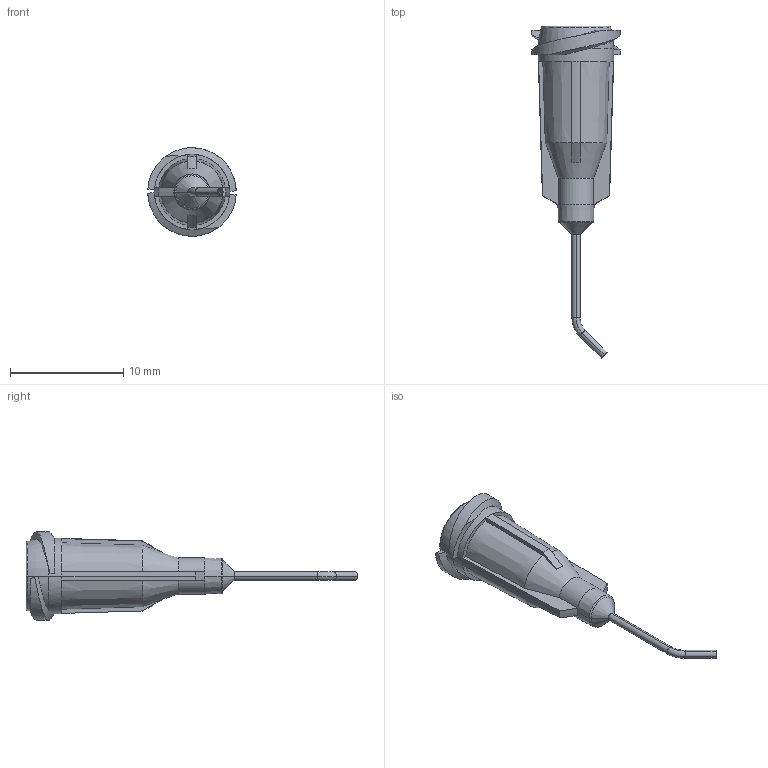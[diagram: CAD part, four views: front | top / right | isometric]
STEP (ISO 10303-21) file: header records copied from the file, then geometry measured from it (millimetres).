
FILE_DESCRIPTION (( 'STEP AP214' ), '1' );
FILE_NAME ('NORDSONEFD-7018268 TIP 22GA GP 016 45D BL.STEP', '2019-02-18T02:53:27', ( '' ), ( '' ), 'SwSTEP 2.0', 'SolidWorks 2019', '' );
FILE_SCHEMA (( 'AUTOMOTIVE_DESIGN' ));
Length unit declared in the file: inch
Products named in the file (1): NORDSONEFD-7018268 TIP 22GA GP 016 45D BL
Bounding box: 7.82 x 29.36 x 7.82 mm (x, y, z)
Volume: 267.5 mm3; surface area: 583.4 mm2
Topology: 1 solids, 1 shells, 128 faces, 294 edges, 172 vertices
Faces by surface type: torus 38, cylinder 30, plane 26, cone 22, bspline 12
Entity records: 4484 total; most frequent: CARTESIAN_POINT 1129, DIRECTION 638, ORIENTED_EDGE 588, EDGE_CURVE 294, AXIS2_PLACEMENT_3D 283, VERTEX_POINT 172, CIRCLE 166, EDGE_LOOP 134
